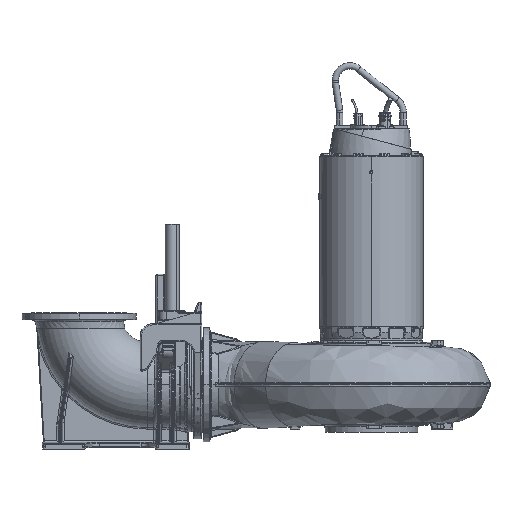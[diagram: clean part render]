
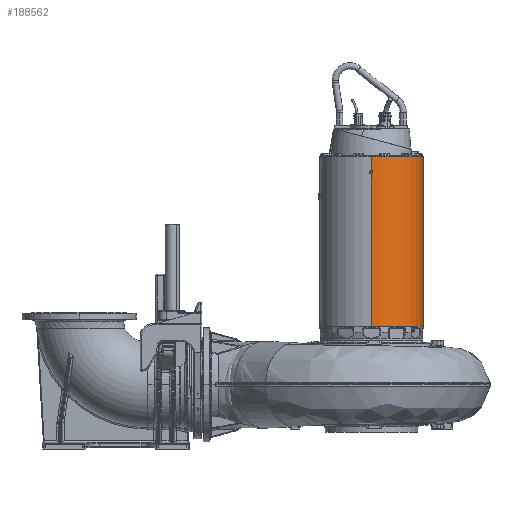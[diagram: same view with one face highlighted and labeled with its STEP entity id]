
A CAD part, top view. The second image highlights one B-rep face of the part: STEP entity #188562.
In plain terms, the highlighted cylindrical face has radius 322 mm (diameter 644 mm), a partial arc.
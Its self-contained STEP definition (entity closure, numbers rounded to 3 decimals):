
#8616 = VERTEX_POINT ( 'NONE', #38784 ) ;
#10439 = VERTEX_POINT ( 'NONE', #17520 ) ;
#12905 = LINE ( 'NONE', #33697, #146046 ) ;
#17520 = CARTESIAN_POINT ( 'NONE',  ( 0., 950.97, 322. ) ) ;
#23251 = VECTOR ( 'NONE', #286627, 1000. ) ;
#25372 = CARTESIAN_POINT ( 'NONE',  ( 6.334, 932.687, -321.953 ) ) ;
#26935 = CARTESIAN_POINT ( 'NONE',  ( 0., -20., 322. ) ) ;
#28599 = AXIS2_PLACEMENT_3D ( 'NONE', #80870, #256237, #106064 ) ;
#30922 = ORIENTED_EDGE ( 'NONE', *, *, #172967, .T. ) ;
#33697 = CARTESIAN_POINT ( 'NONE',  ( 0., 0., -322. ) ) ;
#38761 = DIRECTION ( 'NONE',  ( 0., -1., 0. ) ) ;
#38784 = CARTESIAN_POINT ( 'NONE',  ( 9.5, 945.485, -321.86 ) ) ;
#44506 = EDGE_CURVE ( 'NONE', #61270, #292867, #215137, .T. ) ;
#50502 =( BOUNDED_CURVE ( )  B_SPLINE_CURVE ( 3, ( #232686, #82558, #257922, #107773 ),
 .UNSPECIFIED., .F., .F. ) 
 B_SPLINE_CURVE_WITH_KNOTS ( ( 4, 4 ),
 ( 1.541, 1.571 ),
 .UNSPECIFIED. ) 
 CURVE ( )  GEOMETRIC_REPRESENTATION_ITEM ( )  RATIONAL_B_SPLINE_CURVE ( ( 1., 1., 1., 1. ) ) 
 REPRESENTATION_ITEM ( '' )  );
#50516 = CARTESIAN_POINT ( 'NONE',  ( 9.5, 934.515, -321.86 ) ) ;
#53894 = EDGE_CURVE ( 'NONE', #172965, #119068, #244596, .T. ) ;
#54456 = ORIENTED_EDGE ( 'NONE', *, *, #67468, .T. ) ;
#55661 =( BOUNDED_CURVE ( )  B_SPLINE_CURVE ( 3, ( #50516, #25372, #75648, #250975 ),
 .UNSPECIFIED., .F., .F. ) 
 B_SPLINE_CURVE_WITH_KNOTS ( ( 4, 4 ),
 ( 1.541, 1.571 ),
 .UNSPECIFIED. ) 
 CURVE ( )  GEOMETRIC_REPRESENTATION_ITEM ( )  RATIONAL_B_SPLINE_CURVE ( ( 1., 1., 1., 1. ) ) 
 REPRESENTATION_ITEM ( '' )  );
#56525 = CARTESIAN_POINT ( 'NONE',  ( 0., 0., 322. ) ) ;
#58532 = ORIENTED_EDGE ( 'NONE', *, *, #198408, .F. ) ;
#61270 = VERTEX_POINT ( 'NONE', #284577 ) ;
#64665 = CARTESIAN_POINT ( 'NONE',  ( 0., 950.97, 322. ) ) ;
#67468 = EDGE_CURVE ( 'NONE', #292867, #319570, #50502, .T. ) ;
#70698 = ORIENTED_EDGE ( 'NONE', *, *, #53894, .T. ) ;
#71921 = VERTEX_POINT ( 'NONE', #218049 ) ;
#75118 = EDGE_LOOP ( 'NONE', ( #70698, #129319, #199603, #234779, #54456, #30922, #89518, #156711, #58532, #234834, #148509, #301091 ) ) ;
#75648 = CARTESIAN_POINT ( 'NONE',  ( 3.167, 930.859, -322. ) ) ;
#75753 = EDGE_CURVE ( 'NONE', #152602, #315230, #80126, .T. ) ;
#80126 = CIRCLE ( 'NONE', #317135, 322. ) ;
#80476 =( BOUNDED_CURVE ( )  B_SPLINE_CURVE ( 3, ( #233619, #83512, #258858, #108713 ),
 .UNSPECIFIED., .F., .F. ) 
 B_SPLINE_CURVE_WITH_KNOTS ( ( 4, 4 ),
 ( 1.571, 1.6 ),
 .UNSPECIFIED. ) 
 CURVE ( )  GEOMETRIC_REPRESENTATION_ITEM ( )  RATIONAL_B_SPLINE_CURVE ( ( 1., 1., 1., 1. ) ) 
 REPRESENTATION_ITEM ( '' )  );
#80870 = CARTESIAN_POINT ( 'NONE',  ( 0., 1040., 0. ) ) ;
#82558 = CARTESIAN_POINT ( 'NONE',  ( 6.334, 932.687, 321.953 ) ) ;
#83512 = CARTESIAN_POINT ( 'NONE',  ( 3.167, 949.141, -322. ) ) ;
#86881 = EDGE_CURVE ( 'NONE', #239838, #8616, #80476, .T. ) ;
#89518 = ORIENTED_EDGE ( 'NONE', *, *, #75753, .F. ) ;
#91335 = LINE ( 'NONE', #184293, #224730 ) ;
#98739 = EDGE_CURVE ( 'NONE', #71921, #152602, #12905, .T. ) ;
#99980 = DIRECTION ( 'NONE',  ( 0., -1., 0. ) ) ;
#100258 = CARTESIAN_POINT ( 'NONE',  ( 0., 1040., -322. ) ) ;
#101875 = VERTEX_POINT ( 'NONE', #308045 ) ;
#105708 = VECTOR ( 'NONE', #276046, 1000. ) ;
#106064 = DIRECTION ( 'NONE',  ( 0., 0., -1. ) ) ;
#106834 = DIRECTION ( 'NONE',  ( 0., -1., 0. ) ) ;
#107513 = CARTESIAN_POINT ( 'NONE',  ( 0., 929.03, 322. ) ) ;
#107773 = CARTESIAN_POINT ( 'NONE',  ( 0., 929.03, 322. ) ) ;
#108713 = CARTESIAN_POINT ( 'NONE',  ( 9.5, 945.485, -321.86 ) ) ;
#115004 = CARTESIAN_POINT ( 'NONE',  ( 6.334, 947.313, 321.953 ) ) ;
#119068 = VERTEX_POINT ( 'NONE', #265791 ) ;
#128427 = VECTOR ( 'NONE', #106834, 1000. ) ;
#129319 = ORIENTED_EDGE ( 'NONE', *, *, #209233, .T. ) ;
#146046 = VECTOR ( 'NONE', #208884, 1000. ) ;
#148509 = ORIENTED_EDGE ( 'NONE', *, *, #86881, .F. ) ;
#152602 = VERTEX_POINT ( 'NONE', #247290 ) ;
#156711 = ORIENTED_EDGE ( 'NONE', *, *, #98739, .F. ) ;
#172965 = VERTEX_POINT ( 'NONE', #100258 ) ;
#172967 = EDGE_CURVE ( 'NONE', #319570, #315230, #194977, .T. ) ;
#174520 = CARTESIAN_POINT ( 'NONE',  ( 0., 0., 0. ) ) ;
#175563 = DIRECTION ( 'NONE',  ( 0., 0., -1. ) ) ;
#184293 = CARTESIAN_POINT ( 'NONE',  ( 9.5, 1180.349, -321.86 ) ) ;
#188040 = CARTESIAN_POINT ( 'NONE',  ( 0., 950.97, -322. ) ) ;
#188562 = ADVANCED_FACE ( 'NONE', ( #277805 ), #246410, .T. ) ;
#194977 = LINE ( 'NONE', #56525, #128427 ) ;
#198408 = EDGE_CURVE ( 'NONE', #101875, #71921, #55661, .T. ) ;
#199603 = ORIENTED_EDGE ( 'NONE', *, *, #299318, .T. ) ;
#208884 = DIRECTION ( 'NONE',  ( 0., -1., 0. ) ) ;
#209233 = EDGE_CURVE ( 'NONE', #119068, #10439, #289641, .T. ) ;
#209428 = DIRECTION ( 'NONE',  ( 0., -1., 0. ) ) ;
#215137 = LINE ( 'NONE', #313530, #273805 ) ;
#216398 = CARTESIAN_POINT ( 'NONE',  ( 9.5, 934.515, 321.86 ) ) ;
#218049 = CARTESIAN_POINT ( 'NONE',  ( 0., 929.03, -322. ) ) ;
#219486 = AXIS2_PLACEMENT_3D ( 'NONE', #174520, #299181, #175563 ) ;
#224730 = VECTOR ( 'NONE', #209428, 1000. ) ;
#226839 = CARTESIAN_POINT ( 'NONE',  ( 0., 0., -322. ) ) ;
#232686 = CARTESIAN_POINT ( 'NONE',  ( 9.5, 934.515, 321.86 ) ) ;
#233619 = CARTESIAN_POINT ( 'NONE',  ( 0., 950.97, -322. ) ) ;
#234779 = ORIENTED_EDGE ( 'NONE', *, *, #44506, .T. ) ;
#234834 = ORIENTED_EDGE ( 'NONE', *, *, #305264, .F. ) ;
#237786 = CARTESIAN_POINT ( 'NONE',  ( 3.167, 949.141, 322. ) ) ;
#239838 = VERTEX_POINT ( 'NONE', #188040 ) ;
#244596 = CIRCLE ( 'NONE', #28599, 322. ) ;
#246410 = CYLINDRICAL_SURFACE ( 'NONE', #219486, 322. ) ;
#247290 = CARTESIAN_POINT ( 'NONE',  ( 0., -20., -322. ) ) ;
#250058 = CARTESIAN_POINT ( 'NONE',  ( 0., -20., 0. ) ) ;
#250975 = CARTESIAN_POINT ( 'NONE',  ( 0., 929.03, -322. ) ) ;
#256237 = DIRECTION ( 'NONE',  ( 0., -1., 0. ) ) ;
#257111 = CARTESIAN_POINT ( 'NONE',  ( 0., 0., 322. ) ) ;
#257922 = CARTESIAN_POINT ( 'NONE',  ( 3.167, 930.859, 322. ) ) ;
#258858 = CARTESIAN_POINT ( 'NONE',  ( 6.334, 947.313, -321.953 ) ) ;
#262869 =( BOUNDED_CURVE ( )  B_SPLINE_CURVE ( 3, ( #64665, #237786, #115004, #290263 ),
 .UNSPECIFIED., .F., .F. ) 
 B_SPLINE_CURVE_WITH_KNOTS ( ( 4, 4 ),
 ( 1.571, 1.6 ),
 .UNSPECIFIED. ) 
 CURVE ( )  GEOMETRIC_REPRESENTATION_ITEM ( )  RATIONAL_B_SPLINE_CURVE ( ( 1., 1., 1., 1. ) ) 
 REPRESENTATION_ITEM ( '' )  );
#265791 = CARTESIAN_POINT ( 'NONE',  ( 0., 1040., 322. ) ) ;
#273805 = VECTOR ( 'NONE', #38761, 1000. ) ;
#275161 = DIRECTION ( 'NONE',  ( 1., 0., 0. ) ) ;
#276046 = DIRECTION ( 'NONE',  ( 0., -1., 0. ) ) ;
#277805 = FACE_OUTER_BOUND ( 'NONE', #75118, .T. ) ;
#284577 = CARTESIAN_POINT ( 'NONE',  ( 9.5, 945.485, 321.86 ) ) ;
#286627 = DIRECTION ( 'NONE',  ( 0., -1., 0. ) ) ;
#289641 = LINE ( 'NONE', #257111, #23251 ) ;
#290263 = CARTESIAN_POINT ( 'NONE',  ( 9.5, 945.485, 321.86 ) ) ;
#291082 = EDGE_CURVE ( 'NONE', #172965, #239838, #297661, .T. ) ;
#292867 = VERTEX_POINT ( 'NONE', #216398 ) ;
#297661 = LINE ( 'NONE', #226839, #105708 ) ;
#299181 = DIRECTION ( 'NONE',  ( 0., -1., 0. ) ) ;
#299318 = EDGE_CURVE ( 'NONE', #10439, #61270, #262869, .T. ) ;
#301091 = ORIENTED_EDGE ( 'NONE', *, *, #291082, .F. ) ;
#305264 = EDGE_CURVE ( 'NONE', #8616, #101875, #91335, .T. ) ;
#308045 = CARTESIAN_POINT ( 'NONE',  ( 9.5, 934.515, -321.86 ) ) ;
#313530 = CARTESIAN_POINT ( 'NONE',  ( 9.5, 1180.349, 321.86 ) ) ;
#315230 = VERTEX_POINT ( 'NONE', #26935 ) ;
#317135 = AXIS2_PLACEMENT_3D ( 'NONE', #250058, #99980, #275161 ) ;
#319570 = VERTEX_POINT ( 'NONE', #107513 ) ;
